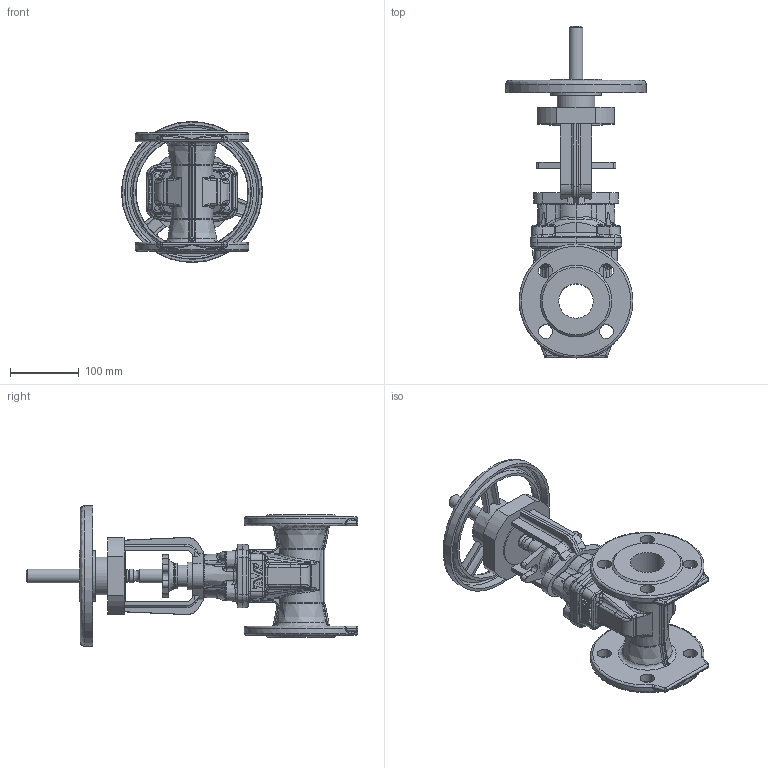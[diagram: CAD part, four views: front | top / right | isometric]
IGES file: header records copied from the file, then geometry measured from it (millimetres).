
Start section: SolidWorks IGES file using analytic representation for surfaces
Global section: file name: \\avksan2\techshare\PBM outline export from Enovia\O_21_34_DN050_41XXXXX open_AA0.igs; native system: SolidWorks 2012; preprocessor: SolidWorks 2012; author: pbm; date: 200212.095700; units: millimetre
Bounding box: 204.91 x 482.4 x 204.91 mm (x, y, z)
Surface area: 366356.4 mm2 (no closed solid volume)
Topology: 0 solids, 0 shells, 847 faces, 4314 edges, 4222 vertices
Faces by surface type: bspline 478, revolution 369
